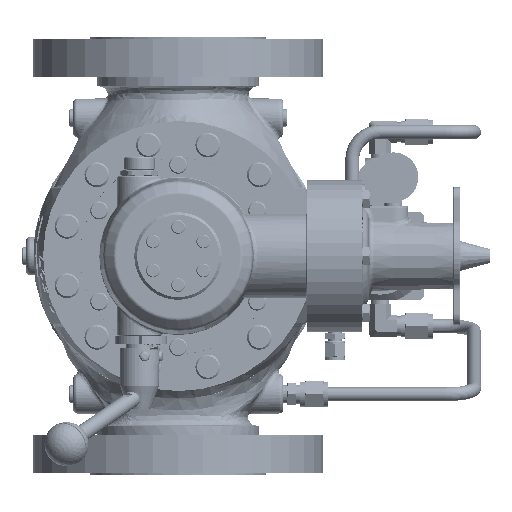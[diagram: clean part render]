
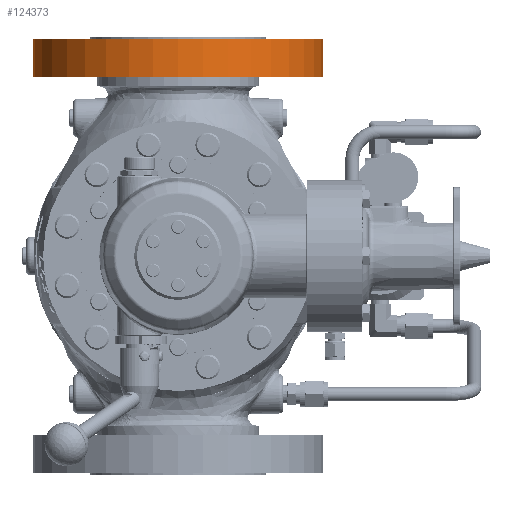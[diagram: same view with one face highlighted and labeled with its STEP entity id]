
A CAD part, front view. The second image highlights one B-rep face of the part: STEP entity #124373.
In plain terms, the highlighted cylindrical face has radius 105 mm (diameter 210 mm), a partial arc.
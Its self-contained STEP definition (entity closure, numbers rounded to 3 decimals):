
#20670=CARTESIAN_POINT('',(0.,0.,129.9));
#20671=DIRECTION('',(0.,0.,1.));
#20672=DIRECTION('',(-1.,0.,0.));
#20673=AXIS2_PLACEMENT_3D('',#20670,#20671,#20672);
#20690=CARTESIAN_POINT('',(0.,0.,156.9));
#20691=DIRECTION('',(0.,0.,-1.));
#20692=DIRECTION('',(1.,0.,0.));
#20693=AXIS2_PLACEMENT_3D('',#20690,#20691,#20692);
#20705=DIRECTION('',(0.,0.,-1.));
#20706=VECTOR('',#20705,27.);
#20707=CARTESIAN_POINT('',(105.,0.,156.9));
#20708=LINE('',#20707,#20706);
#20709=DIRECTION('',(0.,0.,1.));
#20710=VECTOR('',#20709,27.);
#20711=CARTESIAN_POINT('',(-105.,0.,129.9));
#20712=LINE('',#20711,#20710);
#93739=CARTESIAN_POINT('',(105.,0.,129.9));
#93740=CARTESIAN_POINT('',(-105.,0.,129.9));
#93741=VERTEX_POINT('',#93739);
#93742=VERTEX_POINT('',#93740);
#93743=CARTESIAN_POINT('',(-105.,0.,156.9));
#93744=CARTESIAN_POINT('',(105.,0.,156.9));
#93745=VERTEX_POINT('',#93743);
#93746=VERTEX_POINT('',#93744);
#124362=CARTESIAN_POINT('',(0.,0.,129.354));
#124363=DIRECTION('',(0.,0.,1.));
#124364=DIRECTION('',(1.,0.,0.));
#124365=AXIS2_PLACEMENT_3D('',#124362,#124363,#124364);
#124366=CYLINDRICAL_SURFACE('',#124365,105.);
#124367=ORIENTED_EDGE('',*,*,#124351,.F.);
#124368=ORIENTED_EDGE('',*,*,#124340,.T.);
#124369=ORIENTED_EDGE('',*,*,#124321,.F.);
#124370=ORIENTED_EDGE('',*,*,#124337,.T.);
#124371=EDGE_LOOP('',(#124367,#124368,#124369,#124370));
#124372=FACE_OUTER_BOUND('',#124371,.F.);
#124373=ADVANCED_FACE('',(#124372),#124366,.T.);
#20674=CIRCLE('',#20673,105.);
#20694=CIRCLE('',#20693,105.);
#124321=EDGE_CURVE('',#93742,#93741,#20674,.T.);
#124337=EDGE_CURVE('',#93742,#93745,#20712,.T.);
#124340=EDGE_CURVE('',#93746,#93741,#20708,.T.);
#124351=EDGE_CURVE('',#93746,#93745,#20694,.T.);
